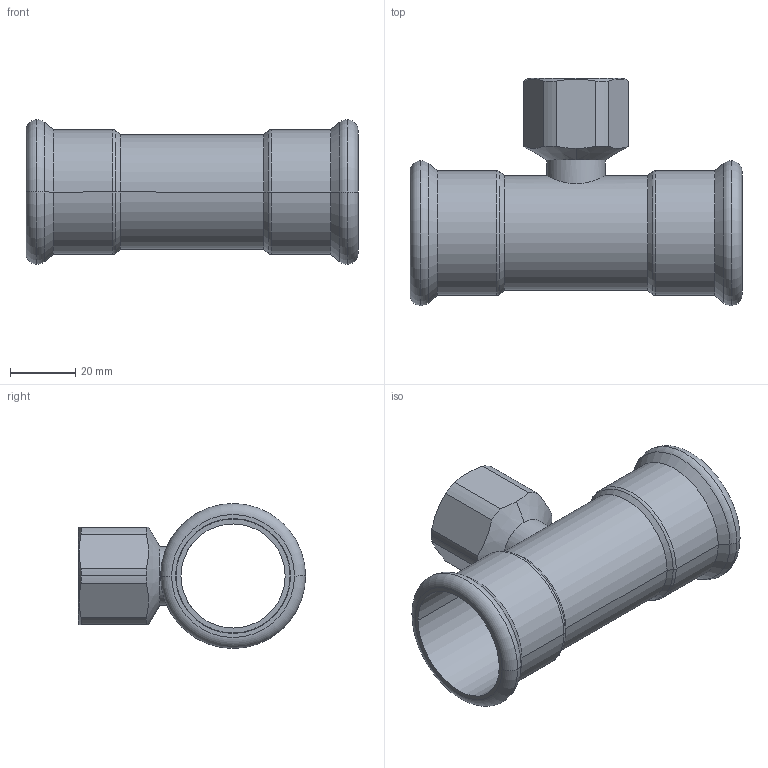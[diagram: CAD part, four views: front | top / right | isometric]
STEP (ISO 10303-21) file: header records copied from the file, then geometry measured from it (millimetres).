
FILE_DESCRIPTION(('CoCreate Modeling STEP Export'),'2;1');
FILE_NAME('C1418 35xRp3-4x35.stp','2014-11-12T13:40:20',(''),(''),'CoCreate Modeling STEP processor for AP214 (Solid Model)','CoCreate Modeling 17.00A 17-Jun-2010 (C) Parametric Technology GmbH','');
FILE_SCHEMA(('AUTOMOTIVE_DESIGN { 1 0 10303 214 1 1 1 1 }'));
Length unit declared in the file: millimetre
Products named in the file (2): C1418_35xRp3-4x35
Assembly tree (1 placements, depth 2):
  C1418_35xRp3-4x35
    C1418_35xRp3-4x35
Bounding box: 102 x 69.78 x 44.55 mm (x, y, z)
Volume: 30098.8 mm3; surface area: 29848.2 mm2
Topology: 1 solids, 1 shells, 68 faces, 158 edges, 96 vertices
Faces by surface type: cylinder 30, plane 14, torus 12, cone 12
Entity records: 3259 total; most frequent: CARTESIAN_POINT 1856, ORIENTED_EDGE 316, DIRECTION 242, EDGE_CURVE 158, AXIS2_PLACEMENT_3D 97, VERTEX_POINT 96, EDGE_LOOP 76, FACE_OUTER_BOUND 68
